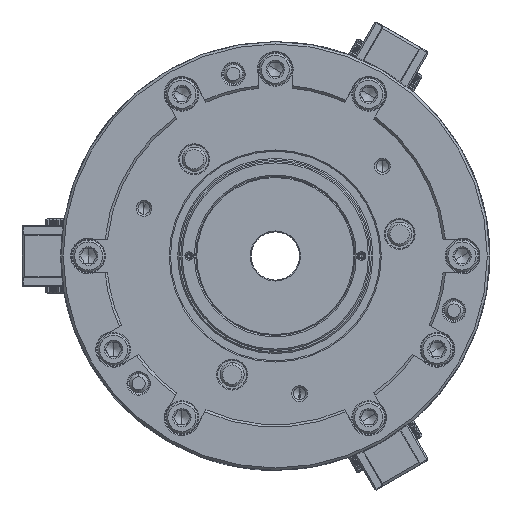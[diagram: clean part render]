
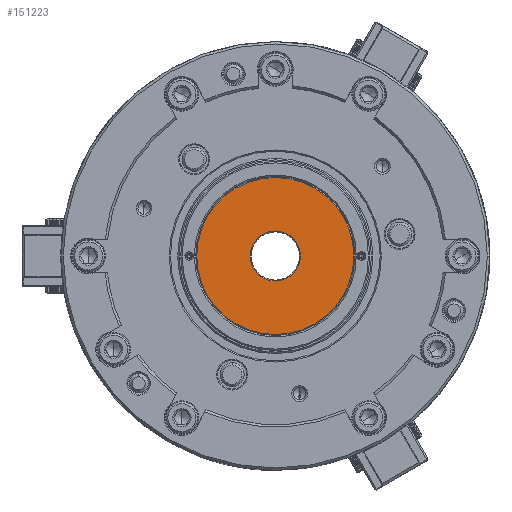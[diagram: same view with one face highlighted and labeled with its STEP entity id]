
A CAD part, left-side view. The second image highlights one B-rep face of the part: STEP entity #151223.
In plain terms, the highlighted planar face has unit normal (-1, 0, 0).
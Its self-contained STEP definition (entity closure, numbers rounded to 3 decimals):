
#1105 = VERTEX_POINT ( 'NONE', #51826 ) ;
#4322 = ORIENTED_EDGE ( 'NONE', *, *, #38915, .T. ) ;
#18062 = VERTEX_POINT ( 'NONE', #187790 ) ;
#26195 = AXIS2_PLACEMENT_3D ( 'NONE', #166994, #118847, #33227 ) ;
#29372 = ORIENTED_EDGE ( 'NONE', *, *, #206775, .T. ) ;
#30853 = CIRCLE ( 'NONE', #150538, 32.6 ) ;
#33227 = DIRECTION ( 'NONE',  ( 0., 0., 1. ) ) ;
#38915 = EDGE_CURVE ( 'NONE', #18062, #85172, #74319, .T. ) ;
#51826 = CARTESIAN_POINT ( 'NONE',  ( -28.5, 0., -10.4 ) ) ;
#53647 = DIRECTION ( 'NONE',  ( -1., 0., 0. ) ) ;
#54697 = DIRECTION ( 'NONE',  ( -1., 0., 0. ) ) ;
#55966 = CARTESIAN_POINT ( 'NONE',  ( -28.5, 0., 0. ) ) ;
#59061 = DIRECTION ( 'NONE',  ( -1., 0., 0. ) ) ;
#66522 = FACE_BOUND ( 'NONE', #125226, .T. ) ;
#74319 = CIRCLE ( 'NONE', #139292, 32.6 ) ;
#84714 = DIRECTION ( 'NONE',  ( 0., 0., 1. ) ) ;
#85172 = VERTEX_POINT ( 'NONE', #101797 ) ;
#89967 = DIRECTION ( 'NONE',  ( 0., 0., 1. ) ) ;
#91606 = AXIS2_PLACEMENT_3D ( 'NONE', #55966, #186539, #187585 ) ;
#101797 = CARTESIAN_POINT ( 'NONE',  ( -28.5, 0., -32.6 ) ) ;
#105859 = VERTEX_POINT ( 'NONE', #137510 ) ;
#118847 = DIRECTION ( 'NONE',  ( -1., 0., 0. ) ) ;
#125226 = EDGE_LOOP ( 'NONE', ( #211644, #145581 ) ) ;
#137510 = CARTESIAN_POINT ( 'NONE',  ( -28.5, 0., 10.4 ) ) ;
#139292 = AXIS2_PLACEMENT_3D ( 'NONE', #204664, #59061, #141493 ) ;
#141493 = DIRECTION ( 'NONE',  ( 0., 0., 1. ) ) ;
#145581 = ORIENTED_EDGE ( 'NONE', *, *, #200721, .F. ) ;
#150538 = AXIS2_PLACEMENT_3D ( 'NONE', #189479, #54697, #89967 ) ;
#151223 = ADVANCED_FACE ( 'NONE', ( #166040, #66522 ), #200302, .T. ) ;
#156296 = CIRCLE ( 'NONE', #26195, 10.4 ) ;
#158050 = AXIS2_PLACEMENT_3D ( 'NONE', #197147, #53647, #84714 ) ;
#159894 = CIRCLE ( 'NONE', #91606, 10.4 ) ;
#166040 = FACE_OUTER_BOUND ( 'NONE', #178534, .T. ) ;
#166994 = CARTESIAN_POINT ( 'NONE',  ( -28.5, 0., 0. ) ) ;
#175942 = EDGE_CURVE ( 'NONE', #105859, #1105, #159894, .T. ) ;
#178534 = EDGE_LOOP ( 'NONE', ( #29372, #4322 ) ) ;
#186539 = DIRECTION ( 'NONE',  ( -1., 0., 0. ) ) ;
#187585 = DIRECTION ( 'NONE',  ( 0., 0., 1. ) ) ;
#187790 = CARTESIAN_POINT ( 'NONE',  ( -28.5, 0., 32.6 ) ) ;
#189479 = CARTESIAN_POINT ( 'NONE',  ( -28.5, 0., 0. ) ) ;
#197147 = CARTESIAN_POINT ( 'NONE',  ( -28.5, -32.6, 0. ) ) ;
#200302 = PLANE ( 'NONE',  #158050 ) ;
#200721 = EDGE_CURVE ( 'NONE', #1105, #105859, #156296, .T. ) ;
#204664 = CARTESIAN_POINT ( 'NONE',  ( -28.5, 0., 0. ) ) ;
#206775 = EDGE_CURVE ( 'NONE', #85172, #18062, #30853, .T. ) ;
#211644 = ORIENTED_EDGE ( 'NONE', *, *, #175942, .F. ) ;
